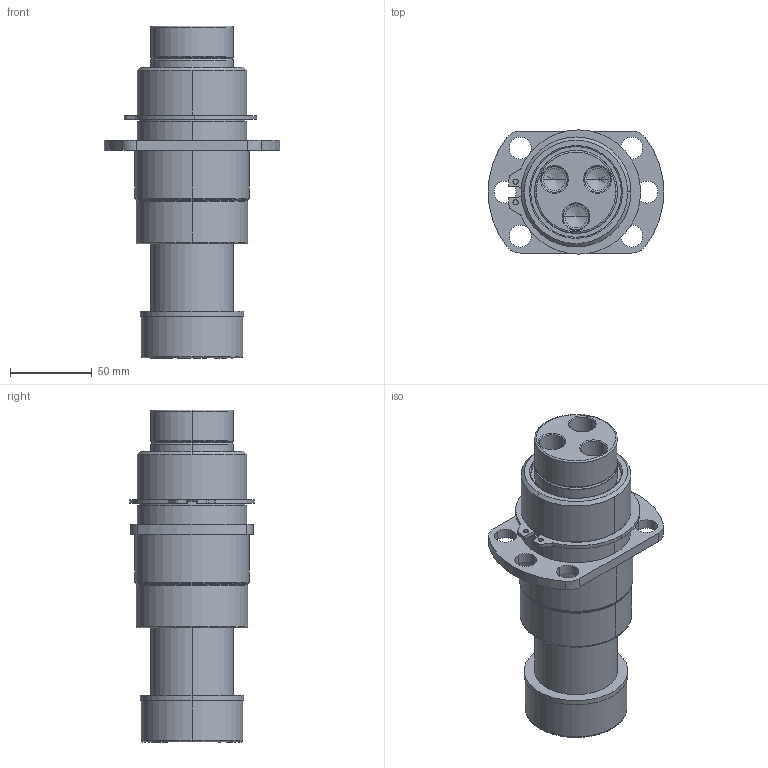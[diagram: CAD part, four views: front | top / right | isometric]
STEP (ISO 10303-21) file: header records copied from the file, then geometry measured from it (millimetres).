
FILE_DESCRIPTION (( 'STEP AP214' ), '1' );
FILE_NAME ('GK205-N4-2-TB-E-XXX.STEP', '2020-09-22T13:53:39', ( '' ), ( '' ), 'SwSTEP 2.0', 'SolidWorks 2017', '' );
FILE_SCHEMA (( 'AUTOMOTIVE_DESIGN' ));
Length unit declared in the file: inch
Products named in the file (7): GK205-E-XXX-GuidePin; GK205-N4-2-TB-E-XXX; GK205-DampeningWasher; GK2.00-N4-2-TB-Base; RetainingRing
Assembly tree (6 placements, depth 3):
  GK205-N4-2-TB-E-XXX
    GK2.00-N4-2-TB-Base
      GK2.00-N4-2-TB-Base
      RetainingRing
    GK205-E-XXX-GuidePin
      GK205-E-XXX-GuidePin
      GK205-DampeningWasher
Bounding box: 107.7 x 76.06 x 203.2 mm (x, y, z)
Volume: 610934.9 mm3; surface area: 103577.6 mm2
Topology: 4 solids, 4 shells, 136 faces, 330 edges, 205 vertices
Faces by surface type: cylinder 68, cone 24, bspline 22, plane 22
Entity records: 4942 total; most frequent: CARTESIAN_POINT 1256, DIRECTION 762, ORIENTED_EDGE 648, EDGE_CURVE 324, AXIS2_PLACEMENT_3D 323, VERTEX_POINT 205, CIRCLE 198, EDGE_LOOP 165
